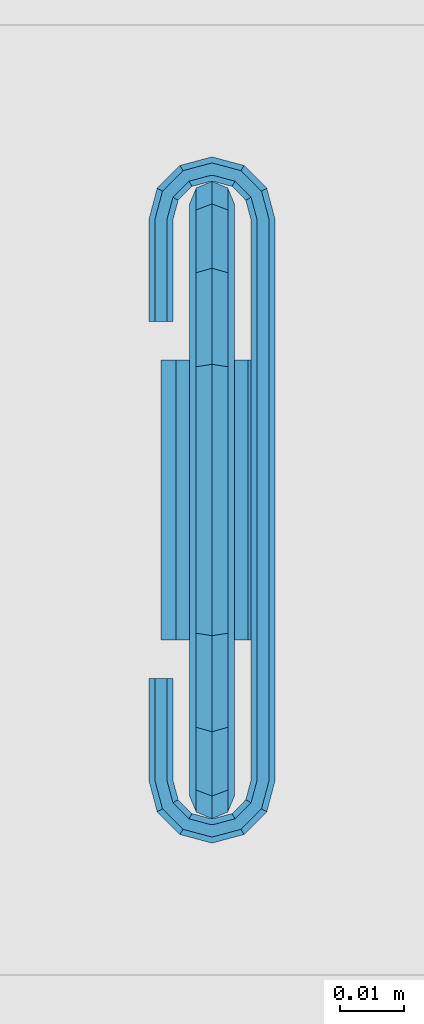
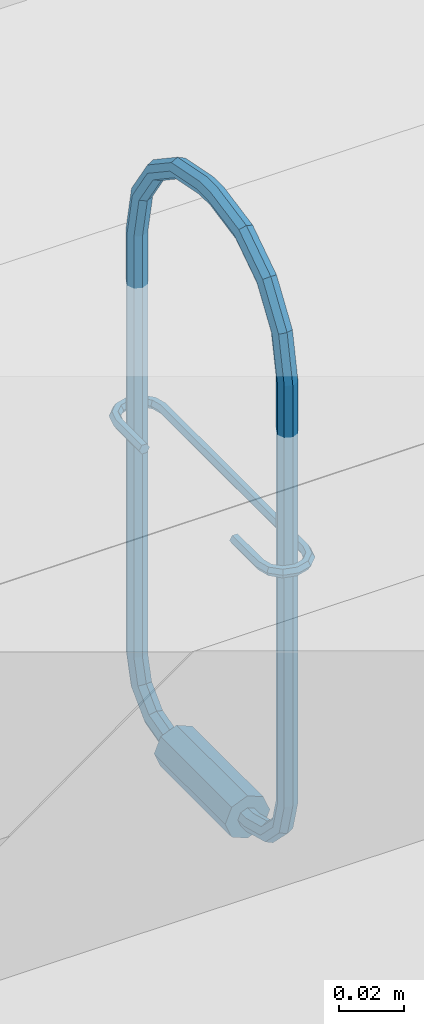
# One storey, part 167 of 230: 1 beam.
"""IFC4X3_ADD2 building model written with IfcOpenShell, lengths in millimetres."""

from ifc_helpers import new_model, si_unit, direction, origin_with_axes, place, context, subcontext, project, spatial, triangles, element, save


model = new_model("IFC4X3_ADD2")

# Units and contexts
model_context = context("Model", 3, precision=1e-05, world=origin_with_axes(), true_north=direction((0.0, 1.0)))
body_context = subcontext(model_context, "Body", "Model", "MODEL_VIEW")
ifc_project = project(units=[si_unit("LENGTHUNIT", "METRE", prefix="MILLI"), si_unit("AREAUNIT", "SQUARE_METRE"), si_unit("VOLUMEUNIT", "CUBIC_METRE"), si_unit("PLANEANGLEUNIT", "RADIAN"), si_unit("TIMEUNIT", "SECOND"), si_unit("MASSUNIT", "GRAM")], contexts=[model_context])

# Site, building, storey
site_placement = place(None, origin_with_axes())
site = spatial("IfcSite", under=ifc_project, at=site_placement, Name="Site", CompositionType="ELEMENT")
building_placement = place(site_placement, origin_with_axes())
building = spatial("IfcBuilding", under=site, at=building_placement, Name="IFC Building Story")
storey_placement = place(building_placement, origin_with_axes())
storey = spatial("IfcBuildingStorey", under=building, at=storey_placement, Name="ETAGE 00 (0)", Elevation=0.0)

# Beam
beam_placement = place(storey_placement, origin_with_axes())
element("IfcBeam", 1, at=beam_placement, inside=storey, Name="LU2", ObjectType="D7", context=body_context, shape_type="Tessellation", body=[
    triangles([(47798.66381835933, -12508.50044860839, 4036.025157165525), (47798.66381835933, -12512.00023498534, 4036.025157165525), (47796.18955078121, -12508.50044860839, 4034.999929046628), (47796.18955078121, -12512.00023498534, 4034.999929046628), (47799.68701171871, -12508.50044860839, 4038.500006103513), (47799.68701171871, -12512.00023498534, 4038.500006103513), (47798.66381835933, -12512.00023498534, 4040.974855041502), (47798.66381835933, -12508.50044860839, 4040.974855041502), (47796.18955078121, -12512.00023498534, 4042.000083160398), (47796.18955078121, -12508.50044860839, 4042.000083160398), (47793.71528320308, -12512.00023498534, 4040.974855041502), (47793.71528320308, -12508.50044860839, 4040.974855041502), (47792.6874389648, -12512.00023498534, 4038.500006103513), (47792.6874389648, -12508.50044860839, 4038.500006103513), (47793.71528320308, -12508.50044860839, 4036.025157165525), (47793.71528320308, -12512.00023498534, 4036.025157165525), (47796.18955078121, -12496.25003356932, 4038.282286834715), (47793.71528320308, -12496.76279296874, 4039.170023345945), (47796.18955078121, -12487.28197631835, 4047.250053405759), (47793.71528320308, -12488.17029418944, 4047.762522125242), (47798.66381835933, -12488.17029418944, 4047.762522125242), (47798.66381835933, -12496.76279296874, 4039.170023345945), (47799.68701171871, -12490.31318664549, 4048.999946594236), (47799.68701171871, -12497.9999267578, 4041.313497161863), (47798.66381835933, -12499.23706054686, 4043.456680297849), (47798.66381835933, -12492.45724182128, 4050.237371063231), (47796.18955078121, -12499.74981994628, 4044.34441680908), (47796.18955078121, -12493.34439697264, 4050.750130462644), (47793.71528320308, -12492.45724182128, 4050.237371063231), (47793.71528320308, -12499.23706054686, 4043.456680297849), (47792.6874389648, -12490.31318664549, 4048.999946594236), (47792.6874389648, -12497.9999267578, 4041.313497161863), (47793.71528320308, -12485.02513732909, 4059.499887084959), (47792.6874389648, -12487.49940490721, 4059.499887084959), (47796.18955078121, -12483.99961853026, 4059.499887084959), (47798.66381835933, -12485.02513732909, 4059.499887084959), (47799.68701171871, -12487.49940490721, 4059.499887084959), (47798.66381835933, -12489.97483520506, 4059.499887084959), (47796.18955078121, -12491.00035400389, 4059.499887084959), (47793.71528320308, -12489.97483520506, 4059.499887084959), (47793.71528320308, -12489.97483520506, 4218.50006561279), (47792.6874389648, -12487.49940490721, 4218.50006561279), (47793.71528320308, -12493.05953063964, 4234.008421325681), (47792.6874389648, -12490.77362365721, 4234.955456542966), (47793.71528320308, -12501.84387817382, 4247.155583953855), (47792.6874389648, -12500.09398498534, 4248.905477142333), (47793.71528320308, -12498.34409179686, 4250.65566101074), (47793.71528320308, -12488.48655395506, 4235.902491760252), (47796.18955078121, -12497.61971740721, 4251.38032608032), (47796.18955078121, -12487.54010009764, 4236.294909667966), (47798.66381835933, -12498.34409179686, 4250.65566101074), (47798.66381835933, -12488.48655395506, 4235.902491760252), (47799.68701171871, -12500.09398498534, 4248.905477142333), (47799.68701171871, -12490.77362365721, 4234.955456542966), (47798.66381835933, -12493.05953063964, 4234.008421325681), (47798.66381835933, -12501.84387817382, 4247.155583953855), (47796.18955078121, -12494.00714721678, 4233.616003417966), (47796.18955078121, -12502.56941528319, 4246.430628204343), (47796.18955078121, -12515.38374938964, 4254.993186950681), (47793.71528320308, -12514.99191284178, 4255.940222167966), (47792.6874389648, -12514.04429626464, 4258.226710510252), (47793.71528320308, -12513.09784240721, 4260.513198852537), (47796.18955078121, -12512.70484313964, 4261.460524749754), (47798.66381835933, -12513.09784240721, 4260.513198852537), (47799.68701171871, -12514.04429626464, 4258.226710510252), (47798.66381835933, -12514.99191284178, 4255.940222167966), (47798.66381835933, -12530.50026855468, 4259.025208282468), (47796.18955078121, -12530.50026855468, 4257.999980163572), (47793.71528320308, -12530.50026855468, 4259.025208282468), (47792.6874389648, -12530.50026855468, 4261.500057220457), (47793.71528320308, -12530.50026855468, 4263.974906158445), (47796.18955078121, -12530.50026855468, 4265.000134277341), (47798.66381835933, -12530.50026855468, 4263.974906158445), (47799.68701171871, -12530.50026855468, 4261.500057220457), (47799.68701171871, -12537.49984130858, 4261.500057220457), (47798.66381835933, -12537.49984130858, 4259.025208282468), (47799.68701171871, -12553.95581359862, 4258.226710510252), (47798.66381835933, -12553.00819702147, 4255.940222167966), (47799.68701171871, -12567.90612487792, 4248.905477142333), (47798.66381835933, -12566.15506896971, 4247.155583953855), (47796.18955078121, -12552.61636047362, 4254.993186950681), (47796.18955078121, -12565.43069458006, 4246.430628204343), (47793.71528320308, -12566.15506896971, 4247.155583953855), (47793.71528320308, -12553.00819702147, 4255.940222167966), (47792.6874389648, -12567.90612487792, 4248.905477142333), (47792.6874389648, -12553.95581359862, 4258.226710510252), (47793.71528320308, -12569.65601806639, 4250.65566101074), (47793.71528320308, -12554.90226745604, 4260.513198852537), (47796.18955078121, -12570.38039245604, 4251.38032608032), (47796.18955078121, -12555.29526672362, 4261.460524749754), (47798.66381835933, -12569.65601806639, 4250.65566101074), (47798.66381835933, -12554.90226745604, 4260.513198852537), (47799.68701171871, -12577.22648620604, 4234.955456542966), (47798.66381835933, -12579.51355590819, 4235.902491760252), (47798.66381835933, -12574.94057922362, 4234.008421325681), (47796.18955078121, -12573.99296264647, 4233.616003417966), (47793.71528320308, -12574.94057922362, 4234.008421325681), (47792.6874389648, -12577.22648620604, 4234.955456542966), (47793.71528320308, -12579.51355590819, 4235.902491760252), (47796.18955078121, -12580.46000976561, 4236.294909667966), (47798.66381835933, -12582.97497253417, 4218.50006561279), (47796.18955078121, -12584.00049133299, 4218.50006561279), (47799.68701171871, -12580.49954223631, 4218.50006561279), (47798.66381835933, -12578.02527465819, 4218.50006561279), (47796.18955078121, -12576.99975585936, 4218.50006561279), (47793.71528320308, -12578.02527465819, 4218.50006561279), (47792.6874389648, -12580.49954223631, 4218.50006561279), (47793.71528320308, -12582.97497253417, 4218.50006561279), (47796.18955078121, -12584.00049133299, 4059.499887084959), (47793.71528320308, -12582.97497253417, 4059.499887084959), (47796.18955078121, -12580.71813354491, 4047.250053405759), (47793.71528320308, -12579.82981567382, 4047.762522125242), (47796.18955078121, -12571.75007629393, 4038.282286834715), (47793.71528320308, -12571.23731689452, 4039.170023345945), (47798.66381835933, -12571.23731689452, 4039.170023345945), (47798.66381835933, -12579.82981567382, 4047.762522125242), (47799.68701171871, -12570.00018310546, 4041.313497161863), (47799.68701171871, -12577.68692321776, 4048.999946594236), (47798.66381835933, -12575.54286804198, 4050.237371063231), (47798.66381835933, -12568.76304931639, 4043.456680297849), (47796.18955078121, -12574.65571289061, 4050.750130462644), (47796.18955078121, -12568.25028991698, 4044.34441680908), (47793.71528320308, -12568.76304931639, 4043.456680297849), (47793.71528320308, -12575.54286804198, 4050.237371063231), (47792.6874389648, -12570.00018310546, 4041.313497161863), (47792.6874389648, -12577.68692321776, 4048.999946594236), (47793.71528320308, -12559.49966125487, 4036.025157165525), (47792.6874389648, -12559.49966125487, 4038.500006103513), (47796.18955078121, -12559.49966125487, 4034.999929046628), (47798.66381835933, -12559.49966125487, 4036.025157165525), (47799.68701171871, -12559.49966125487, 4038.500006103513), (47798.66381835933, -12559.49966125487, 4040.974855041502), (47796.18955078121, -12559.49966125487, 4042.000083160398), (47793.71528320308, -12559.49966125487, 4040.974855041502), (47793.71528320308, -12555.99987487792, 4040.974855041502), (47792.6874389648, -12555.99987487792, 4038.500006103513), (47796.18955078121, -12555.99987487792, 4042.000083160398), (47798.66381835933, -12555.99987487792, 4040.974855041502), (47799.68701171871, -12555.99987487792, 4038.500006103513), (47798.66381835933, -12555.99987487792, 4036.025157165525), (47796.18955078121, -12555.99987487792, 4034.999929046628), (47793.71528320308, -12555.99987487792, 4036.025157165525), (47804.18906249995, -12555.99987487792, 4038.500006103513), (47796.18955078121, -12555.99987487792, 4046.500099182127), (47790.53408203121, -12555.99987487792, 4044.156928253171), (47788.19003906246, -12555.99987487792, 4038.500006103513), (47801.84501953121, -12555.99987487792, 4044.156928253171), (47790.53408203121, -12555.99987487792, 4032.843083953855), (47796.18955078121, -12555.99987487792, 4030.4999130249), (47801.84501953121, -12555.99987487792, 4032.843083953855), (47801.84501953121, -12512.00023498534, 4032.843083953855), (47796.18955078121, -12512.00023498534, 4030.4999130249), (47804.18906249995, -12512.00023498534, 4038.500006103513), (47801.84501953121, -12512.00023498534, 4044.156928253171), (47796.18955078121, -12512.00023498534, 4046.500099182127), (47790.53408203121, -12512.00023498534, 4044.156928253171), (47788.19003906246, -12512.00023498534, 4038.500006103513), (47790.53408203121, -12512.00023498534, 4032.843083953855), (47792.6874389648, -12580.49954223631, 4059.499887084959), (47793.71528320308, -12578.02527465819, 4059.499887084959), (47796.18955078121, -12576.99975585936, 4059.499887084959), (47798.66381835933, -12578.02527465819, 4059.499887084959), (47799.68701171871, -12580.49954223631, 4059.499887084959), (47798.66381835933, -12582.97497253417, 4059.499887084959), (47798.66381835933, -12537.49984130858, 4263.974906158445), (47796.18955078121, -12537.49984130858, 4265.000134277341), (47793.71528320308, -12537.49984130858, 4263.974906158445), (47792.6874389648, -12537.49984130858, 4261.500057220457), (47793.71528320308, -12537.49984130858, 4259.025208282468), (47796.18955078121, -12537.49984130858, 4257.999980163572), (47796.18955078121, -12491.00035400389, 4218.50006561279), (47798.66381835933, -12489.97483520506, 4218.50006561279), (47799.68701171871, -12487.49940490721, 4218.50006561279), (47798.66381835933, -12485.02513732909, 4218.50006561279), (47796.18955078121, -12483.99961853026, 4218.50006561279), (47793.71528320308, -12485.02513732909, 4218.50006561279), (47790.08759765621, -12489.93995361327, 4149.999886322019), (47790.08759765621, -12505.99943847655, 4149.999886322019), (47789.13881835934, -12489.93995361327, 4148.354637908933), (47789.13881835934, -12505.99943847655, 4148.354637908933), (47790.88289794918, -12486.97036743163, 4149.999886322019), (47790.06434326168, -12486.49481506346, 4148.354637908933), (47792.58511962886, -12483.97287597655, 4148.354637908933), (47793.0595092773, -12484.79608154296, 4149.999886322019), (47792.58511962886, -12483.97287597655, 4151.645425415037), (47790.06434326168, -12486.49481506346, 4151.645425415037), (47796.02677001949, -12483.04967651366, 4151.645425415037), (47796.02677001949, -12481.14979248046, 4151.645425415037), (47791.63168945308, -12482.32762756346, 4151.645425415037), (47787.24125976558, -12578.06015624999, 4151.645425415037), (47790.06434326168, -12581.50529479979, 4151.645425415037), (47789.13881835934, -12578.06015624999, 4151.645425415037), (47787.24125976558, -12561.99950866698, 4151.645425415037), (47788.41793212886, -12582.45523681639, 4151.645425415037), (47789.13881835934, -12561.99950866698, 4151.645425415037), (47791.63168945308, -12585.67248229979, 4151.645425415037), (47796.02677001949, -12584.9504333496, 4151.645425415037), (47792.58511962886, -12584.0272338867, 4151.645425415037), (47796.02677001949, -12586.8503173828, 4151.645425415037), (47787.24125976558, -12489.93995361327, 4151.645425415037), (47788.41793212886, -12485.54487304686, 4151.645425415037), (47787.24125976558, -12505.99943847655, 4151.645425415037), (47789.13881835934, -12489.93995361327, 4151.645425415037), (47789.13881835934, -12505.99943847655, 4151.645425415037), (47799.79398193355, -12584.0272338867, 4151.645425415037), (47800.74276123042, -12585.67248229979, 4151.645425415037), (47803.96116943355, -12582.45523681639, 4151.645425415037), (47796.34768066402, -12586.8503173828, 4151.645425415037), (47796.34768066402, -12584.9504333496, 4151.645425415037), (47802.31475830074, -12581.50529479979, 4151.645425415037), (47805.13784179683, -12578.06015624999, 4151.645425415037), (47803.24028320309, -12578.06015624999, 4151.645425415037), (47803.24028320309, -12489.93995361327, 4151.645425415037), (47800.74276123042, -12482.32762756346, 4151.645425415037), (47799.79398193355, -12483.97287597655, 4151.645425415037), (47803.96116943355, -12485.54487304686, 4151.645425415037), (47796.34768066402, -12481.14979248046, 4151.645425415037), (47796.34768066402, -12483.04967651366, 4151.645425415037), (47805.13784179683, -12489.93995361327, 4151.645425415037), (47802.31475830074, -12486.49481506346, 4151.645425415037), (47787.24125976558, -12561.99950866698, 4148.354637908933), (47789.13881835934, -12561.99950866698, 4148.354637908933), (47790.08759765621, -12561.99950866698, 4149.999886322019), (47786.2878295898, -12561.99950866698, 4149.999886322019), (47790.08759765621, -12578.06015624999, 4149.999886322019), (47789.13881835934, -12578.06015624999, 4148.354637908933), (47791.63168945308, -12585.67248229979, 4148.354637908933), (47796.02677001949, -12584.9504333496, 4148.354637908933), (47796.02677001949, -12586.8503173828, 4148.354637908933), (47787.24125976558, -12489.93995361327, 4148.354637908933), (47787.24125976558, -12505.99943847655, 4148.354637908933), (47788.41793212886, -12485.54487304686, 4148.354637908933), (47791.63168945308, -12482.32762756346, 4148.354637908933), (47796.02677001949, -12483.04967651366, 4148.354637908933), (47796.02677001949, -12481.14979248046, 4148.354637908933), (47787.24125976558, -12578.06015624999, 4148.354637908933), (47790.06434326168, -12581.50529479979, 4148.354637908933), (47788.41793212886, -12582.45523681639, 4148.354637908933), (47792.58511962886, -12584.0272338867, 4148.354637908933), (47799.79398193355, -12483.97287597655, 4148.354637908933), (47800.74276123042, -12482.32762756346, 4148.354637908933), (47803.96116943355, -12485.54487304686, 4148.354637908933), (47796.34768066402, -12481.14979248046, 4148.354637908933), (47796.34768066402, -12483.04967651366, 4148.354637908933), (47802.31475830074, -12486.49481506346, 4148.354637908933), (47805.13784179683, -12489.93995361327, 4148.354637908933), (47803.24028320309, -12489.93995361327, 4148.354637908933), (47803.24028320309, -12578.06015624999, 4148.354637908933), (47800.74276123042, -12585.67248229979, 4148.354637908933), (47799.79398193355, -12584.0272338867, 4148.354637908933), (47803.96116943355, -12582.45523681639, 4148.354637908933), (47796.34768066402, -12586.8503173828, 4148.354637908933), (47796.34768066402, -12584.9504333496, 4148.354637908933), (47805.13784179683, -12578.06015624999, 4148.354637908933), (47802.31475830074, -12581.50529479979, 4148.354637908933), (47786.2878295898, -12578.06015624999, 4149.999886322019), (47787.59472656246, -12582.92962646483, 4149.999886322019), (47791.15729980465, -12586.49452514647, 4149.999886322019), (47796.02677001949, -12587.8002593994, 4149.999886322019), (47796.34768066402, -12587.8002593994, 4149.999886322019), (47801.21715087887, -12586.49452514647, 4149.999886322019), (47804.78437499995, -12582.92962646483, 4149.999886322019), (47806.09127197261, -12578.06015624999, 4149.999886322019), (47806.09127197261, -12489.93995361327, 4149.999886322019), (47804.78437499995, -12485.07048339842, 4149.999886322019), (47801.21715087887, -12481.50442199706, 4149.999886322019), (47796.34768066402, -12480.19985046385, 4149.999886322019), (47796.02677001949, -12480.19985046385, 4149.999886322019), (47791.15729980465, -12481.50442199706, 4149.999886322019), (47787.59472656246, -12485.07048339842, 4149.999886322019), (47786.2878295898, -12489.93995361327, 4149.999886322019), (47786.2878295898, -12505.99943847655, 4149.999886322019), (47796.02677001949, -12483.99961853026, 4149.999886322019), (47796.34768066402, -12483.99961853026, 4149.999886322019), (47799.31959228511, -12484.79608154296, 4149.999886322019), (47801.49155273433, -12486.97036743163, 4149.999886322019), (47802.2868530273, -12489.93995361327, 4149.999886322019), (47802.2868530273, -12578.06015624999, 4149.999886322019), (47801.49155273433, -12581.02974243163, 4149.999886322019), (47799.31959228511, -12583.2040283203, 4149.999886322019), (47796.34768066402, -12584.00049133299, 4149.999886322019), (47796.02677001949, -12584.00049133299, 4149.999886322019), (47793.0595092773, -12583.2040283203, 4149.999886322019), (47790.88289794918, -12581.02974243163, 4149.999886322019)], [[1, 2, 3], [4, 3, 2], [5, 6, 1], [2, 1, 6], [6, 5, 7], [8, 7, 5], [7, 8, 9], [10, 9, 8], [9, 10, 11], [12, 11, 10], [11, 12, 13], [14, 13, 12], [15, 16, 14], [13, 14, 16], [3, 4, 15], [16, 15, 4], [17, 3, 18], [15, 18, 3], [19, 17, 20], [18, 20, 17], [21, 22, 17], [17, 19, 21], [23, 24, 22], [22, 21, 23], [24, 23, 25], [26, 25, 23], [25, 26, 27], [28, 27, 26], [27, 28, 29], [29, 30, 27], [30, 29, 31], [31, 32, 30], [20, 18, 31], [32, 31, 18], [33, 20, 34], [31, 34, 20], [35, 19, 33], [20, 33, 19], [36, 21, 19], [19, 35, 36], [37, 23, 21], [21, 36, 37], [23, 37, 26], [38, 26, 37], [26, 38, 28], [39, 28, 38], [28, 39, 40], [40, 29, 28], [29, 40, 34], [34, 31, 29], [40, 41, 42], [42, 34, 40], [41, 43, 44], [44, 42, 41], [43, 45, 46], [46, 44, 43], [47, 48, 46], [44, 46, 48], [49, 50, 47], [48, 47, 50], [51, 52, 50], [50, 49, 51], [53, 54, 52], [52, 51, 53], [54, 53, 55], [56, 55, 53], [55, 56, 57], [58, 57, 56], [57, 58, 45], [45, 43, 57], [58, 59, 60], [60, 45, 58], [45, 60, 61], [61, 46, 45], [62, 47, 61], [46, 61, 47], [63, 49, 62], [47, 62, 49], [64, 51, 49], [49, 63, 64], [65, 53, 51], [51, 64, 65], [53, 65, 56], [66, 56, 65], [56, 66, 58], [59, 58, 66], [66, 67, 59], [68, 59, 67], [59, 68, 69], [69, 60, 59], [60, 69, 70], [70, 61, 60], [71, 62, 70], [61, 70, 62], [72, 63, 71], [62, 71, 63], [73, 64, 63], [63, 72, 73], [74, 65, 64], [64, 73, 74], [65, 74, 66], [67, 66, 74], [74, 75, 67], [76, 67, 75], [75, 77, 76], [78, 76, 77], [77, 79, 78], [80, 78, 79], [78, 80, 81], [82, 81, 80], [81, 82, 83], [83, 84, 81], [84, 83, 85], [85, 86, 84], [87, 88, 85], [86, 85, 88], [89, 90, 87], [88, 87, 90], [91, 92, 90], [90, 89, 91], [79, 77, 92], [92, 91, 79], [93, 79, 91], [91, 94, 93], [79, 93, 80], [95, 80, 93], [80, 95, 82], [96, 82, 95], [82, 96, 97], [97, 83, 82], [83, 97, 98], [98, 85, 83], [99, 87, 98], [85, 98, 87], [100, 89, 99], [87, 99, 89], [94, 91, 89], [89, 100, 94], [101, 94, 100], [100, 102, 101], [103, 93, 94], [94, 101, 103], [93, 103, 95], [104, 95, 103], [95, 104, 96], [105, 96, 104], [96, 105, 106], [106, 97, 96], [97, 106, 107], [107, 98, 97], [108, 99, 107], [98, 107, 99], [102, 100, 108], [99, 108, 100], [109, 102, 110], [108, 110, 102], [111, 109, 112], [110, 112, 109], [113, 111, 114], [112, 114, 111], [115, 116, 111], [111, 113, 115], [117, 118, 116], [116, 115, 117], [118, 117, 119], [120, 119, 117], [119, 120, 121], [122, 121, 120], [121, 122, 123], [123, 124, 121], [124, 123, 125], [125, 126, 124], [114, 112, 125], [126, 125, 112], [127, 114, 128], [125, 128, 114], [129, 113, 127], [114, 127, 113], [130, 115, 113], [113, 129, 130], [131, 117, 115], [115, 130, 131], [117, 131, 120], [132, 120, 131], [120, 132, 122], [133, 122, 132], [122, 133, 134], [134, 123, 122], [123, 134, 128], [128, 125, 123], [134, 135, 136], [136, 128, 134], [133, 137, 134], [135, 134, 137], [132, 138, 137], [137, 133, 132], [131, 139, 132], [138, 132, 139], [139, 131, 130], [130, 140, 139], [140, 130, 141], [129, 141, 130], [141, 129, 127], [127, 142, 141], [142, 127, 136], [128, 136, 127], [138, 139, 143], [135, 137, 144], [144, 145, 135], [146, 136, 135], [146, 135, 145], [147, 137, 138], [137, 147, 144], [138, 143, 147], [148, 136, 146], [142, 149, 141], [142, 136, 148], [148, 149, 142], [150, 143, 139], [139, 140, 150], [141, 150, 140], [150, 141, 149], [151, 150, 152], [149, 152, 150], [153, 143, 151], [150, 151, 143], [143, 153, 147], [154, 147, 153], [147, 154, 144], [155, 144, 154], [144, 155, 145], [156, 145, 155], [145, 156, 146], [157, 146, 156], [158, 148, 157], [146, 157, 148], [152, 149, 158], [148, 158, 149], [11, 13, 157], [7, 9, 155], [155, 154, 7], [153, 6, 7], [153, 7, 154], [156, 9, 11], [9, 156, 155], [11, 157, 156], [151, 6, 153], [2, 152, 4], [2, 6, 151], [151, 152, 2], [158, 157, 13], [13, 16, 158], [4, 158, 16], [158, 4, 152], [112, 110, 126], [159, 126, 110], [160, 124, 126], [126, 159, 160], [161, 121, 124], [124, 160, 161], [162, 119, 161], [121, 161, 119], [163, 118, 162], [119, 162, 118], [118, 163, 164], [164, 116, 118], [116, 164, 109], [109, 111, 116], [164, 101, 102], [102, 109, 164], [163, 103, 164], [101, 164, 103], [103, 163, 104], [162, 104, 163], [104, 162, 105], [161, 105, 162], [105, 161, 160], [160, 106, 105], [106, 160, 159], [159, 107, 106], [110, 108, 107], [107, 159, 110], [77, 75, 165], [165, 92, 77], [92, 165, 166], [166, 90, 92], [90, 166, 88], [167, 88, 166], [88, 167, 86], [168, 86, 167], [169, 84, 86], [86, 168, 169], [170, 81, 84], [84, 169, 170], [76, 78, 170], [81, 170, 78], [67, 76, 68], [170, 68, 76], [68, 170, 169], [169, 69, 68], [69, 169, 168], [168, 70, 69], [167, 71, 70], [70, 168, 167], [166, 72, 71], [71, 167, 166], [165, 73, 166], [72, 166, 73], [75, 74, 165], [73, 165, 74], [171, 57, 43], [43, 41, 171], [172, 55, 171], [57, 171, 55], [173, 54, 172], [55, 172, 54], [54, 173, 174], [174, 52, 54], [52, 174, 175], [175, 50, 52], [50, 175, 48], [176, 48, 175], [48, 176, 44], [42, 44, 176], [176, 33, 34], [34, 42, 176], [175, 35, 176], [33, 176, 35], [174, 36, 35], [35, 175, 174], [173, 37, 174], [36, 174, 37], [37, 173, 38], [172, 38, 173], [38, 172, 39], [171, 39, 172], [39, 171, 41], [41, 40, 39], [18, 15, 32], [14, 32, 15], [12, 30, 32], [32, 14, 12], [10, 27, 30], [30, 12, 10], [8, 25, 10], [27, 10, 25], [5, 24, 8], [25, 8, 24], [24, 5, 1], [1, 22, 24], [22, 1, 3], [3, 17, 22], [177, 178, 179], [180, 179, 178], [181, 177, 179], [179, 182, 181], [183, 184, 181], [181, 182, 183], [184, 185, 181], [186, 181, 185], [187, 188, 189], [190, 191, 192], [190, 192, 193], [190, 194, 191], [195, 193, 192], [196, 197, 198], [198, 191, 194], [199, 197, 196], [196, 198, 194], [200, 186, 201], [202, 203, 200], [204, 203, 202], [200, 203, 186], [185, 189, 201], [201, 186, 185], [189, 185, 187], [205, 206, 207], [197, 199, 208], [208, 209, 197], [209, 206, 205], [206, 209, 208], [210, 207, 211], [207, 210, 205], [212, 211, 213], [211, 212, 210], [214, 215, 216], [217, 188, 187], [187, 218, 217], [218, 215, 214], [214, 217, 218], [213, 219, 220], [219, 213, 211], [220, 216, 215], [216, 220, 219], [195, 221, 193], [222, 195, 223], [193, 221, 224], [195, 222, 221], [223, 225, 226], [226, 222, 223], [227, 228, 229], [230, 182, 179], [230, 179, 231], [230, 232, 182], [180, 231, 179], [233, 234, 183], [183, 182, 232], [235, 234, 233], [233, 183, 232], [236, 237, 238], [221, 226, 236], [222, 226, 221], [236, 226, 237], [239, 227, 238], [238, 237, 239], [227, 239, 228], [240, 241, 242], [243, 234, 235], [243, 244, 234], [244, 243, 241], [240, 244, 241], [245, 242, 246], [242, 245, 240], [247, 246, 248], [246, 247, 245], [249, 250, 251], [252, 229, 228], [228, 253, 252], [253, 250, 249], [249, 252, 253], [248, 254, 255], [254, 248, 246], [255, 251, 250], [251, 255, 254], [221, 236, 256], [256, 224, 221], [190, 193, 256], [224, 256, 193], [257, 194, 256], [190, 256, 194], [238, 257, 256], [256, 236, 238], [227, 258, 238], [257, 238, 258], [258, 196, 194], [194, 257, 258], [259, 199, 196], [196, 258, 259], [260, 208, 259], [199, 259, 208], [261, 206, 260], [208, 260, 206], [249, 261, 260], [260, 252, 249], [252, 260, 259], [259, 229, 252], [229, 259, 227], [258, 227, 259], [251, 262, 261], [261, 249, 251], [262, 207, 261], [206, 261, 207], [263, 211, 207], [207, 262, 263], [263, 264, 211], [219, 211, 264], [219, 264, 216], [265, 216, 264], [264, 246, 242], [242, 265, 264], [264, 263, 254], [254, 246, 264], [254, 263, 251], [262, 251, 263], [265, 242, 266], [241, 266, 242], [216, 265, 266], [266, 214, 216], [214, 266, 267], [267, 217, 214], [217, 267, 268], [268, 188, 217], [188, 268, 189], [269, 189, 268], [268, 235, 233], [233, 269, 268], [267, 243, 268], [235, 268, 243], [266, 241, 267], [243, 267, 241], [269, 233, 232], [232, 270, 269], [189, 269, 201], [270, 201, 269], [201, 270, 271], [271, 200, 201], [202, 200, 272], [271, 272, 200], [202, 180, 204], [231, 202, 272], [204, 180, 178], [202, 231, 180], [230, 231, 271], [272, 271, 231], [270, 232, 271], [230, 271, 232], [178, 177, 203], [203, 204, 178], [177, 181, 203], [186, 203, 181], [234, 273, 184], [184, 183, 234], [273, 187, 184], [185, 184, 187], [274, 218, 273], [187, 273, 218], [275, 215, 218], [218, 274, 275], [276, 220, 215], [215, 275, 276], [213, 220, 276], [276, 277, 213], [212, 213, 277], [277, 278, 212], [210, 212, 279], [278, 279, 212], [210, 279, 205], [280, 205, 279], [205, 280, 209], [281, 209, 280], [209, 281, 197], [282, 197, 281], [197, 282, 283], [283, 198, 197], [198, 283, 284], [284, 191, 198], [284, 225, 192], [192, 191, 284], [225, 223, 192], [195, 192, 223], [225, 284, 226], [237, 226, 284], [283, 239, 284], [237, 284, 239], [282, 228, 283], [239, 283, 228], [281, 253, 228], [228, 282, 281], [280, 250, 253], [253, 281, 280], [279, 255, 250], [250, 280, 279], [248, 255, 279], [279, 278, 248], [247, 248, 277], [278, 277, 248], [245, 247, 276], [277, 276, 247], [245, 276, 240], [275, 240, 276], [240, 275, 244], [274, 244, 275], [244, 274, 273], [273, 234, 244]]),
])

save(model, "model.ifc")
